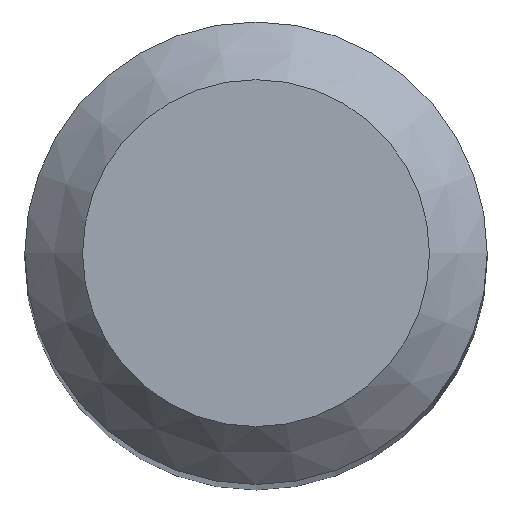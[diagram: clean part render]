
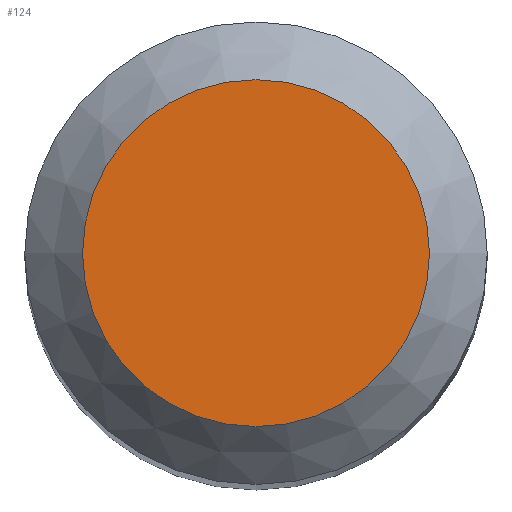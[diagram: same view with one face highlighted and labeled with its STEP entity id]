
A CAD part, top view. The second image highlights one B-rep face of the part: STEP entity #124.
In plain terms, the highlighted planar face has unit normal (0, 0, 1).
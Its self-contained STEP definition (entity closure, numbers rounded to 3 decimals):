
#108=CARTESIAN_POINT('',(1.5,0.0,35.0));
#109=DIRECTION('',(0.0,0.0,1.0));
#110=DIRECTION('',(1.0,0.0,0.0));
#111=AXIS2_PLACEMENT_3D('',#108,#109,#110);
#112=PLANE('',#111);
#113=CARTESIAN_POINT('',(-1.5,0.0,35.0));
#114=VERTEX_POINT('',#113);
#115=CARTESIAN_POINT('',(0.0,0.0,35.0));
#116=DIRECTION('',(0.0,0.0,-1.0));
#117=DIRECTION('',(-1.0,0.0,0.0));
#118=AXIS2_PLACEMENT_3D('',#115,#116,#117);
#119=CIRCLE('',#118,1.5);
#120=EDGE_CURVE('',#114,#114,#119,.T.);
#121=ORIENTED_EDGE('',*,*,#120,.F.);
#122=EDGE_LOOP('',(#121));
#123=FACE_OUTER_BOUND('',#122,.T.);
#124=ADVANCED_FACE('',(#123),#112,.T.);
